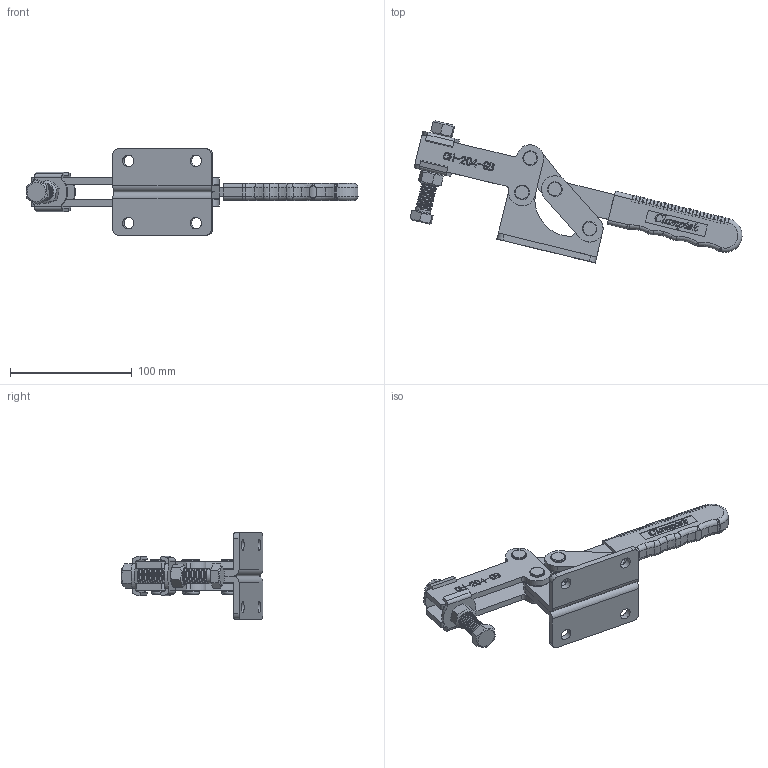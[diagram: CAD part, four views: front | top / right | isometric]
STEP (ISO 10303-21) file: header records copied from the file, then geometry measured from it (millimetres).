
FILE_DESCRIPTION(/* description */ ('STEP AP203'),/* implementation_level */ '2;1');
FILE_NAME(/* name */ 'E:\STRONA\Horizontal toggle clamp\CH-204-GB\CH-204-GB_ZAMKNIETY.stp',/* time_stamp */ '2019-01-17T14:55:18+01:00',/* author */ ('Admin'),/* organization */ ('·L?¤¤?'),/* preprocessor_version */ 'ST-DEVELOPER v17.2',/* originating_system */ 'Autodesk Inventor 2019',/* authorisation */ '');
FILE_SCHEMA (('AUTOMOTIVE_DESIGN { 1 0 10303 214 3 1 1 }'));
Products named in the file (12): CH-204-GB_ZAMKNIETY; 204-GB-01___; FW120(2)___; 204-GB-02___; 204-GB-06___; 204-GB-07___; 204-GB-03___; 204-GB-08___; 204-GB-05___; CH-FC-12130___; CH-FC-12300-01___; 204-GB-04___
Assembly tree (23 placements, depth 2):
  CH-204-GB_ZAMKNIETY
    204-GB-06___  x4
    CH-FC-12300-01___  x2
    204-GB-05___  x4
    204-GB-01___
    204-GB-08___  x4
    FW120(2)___  x2
    204-GB-04___  x2
    204-GB-02___
    204-GB-07___
    204-GB-03___
    CH-FC-12130___
Bounding box: 272.45 x 116.5 x 71 mm (x, y, z)
Volume: 173102.6 mm3; surface area: 93361.1 mm2
Topology: 25 solids, 25 shells, 1387 faces, 3687 edges, 2404 vertices
Faces by surface type: plane 538, bspline 444, cylinder 296, torus 89, cone 14, sphere 6
Full cylindrical faces by diameter (mm): 4.6 x1, 6.6 x1, 9.4 x4, 9.5 x18, 10 x8, 10.2 x2, 10.5 x8, 12 x4, 12.7 x34, 20 x8
Entity records: 75034 total; most frequent: CARTESIAN_POINT 44462, ORIENTED_EDGE 6864, DIRECTION 4764, EDGE_CURVE 3432, VERTEX_POINT 2222, LINE 1864, VECTOR 1864, AXIS2_PLACEMENT_3D 1450
